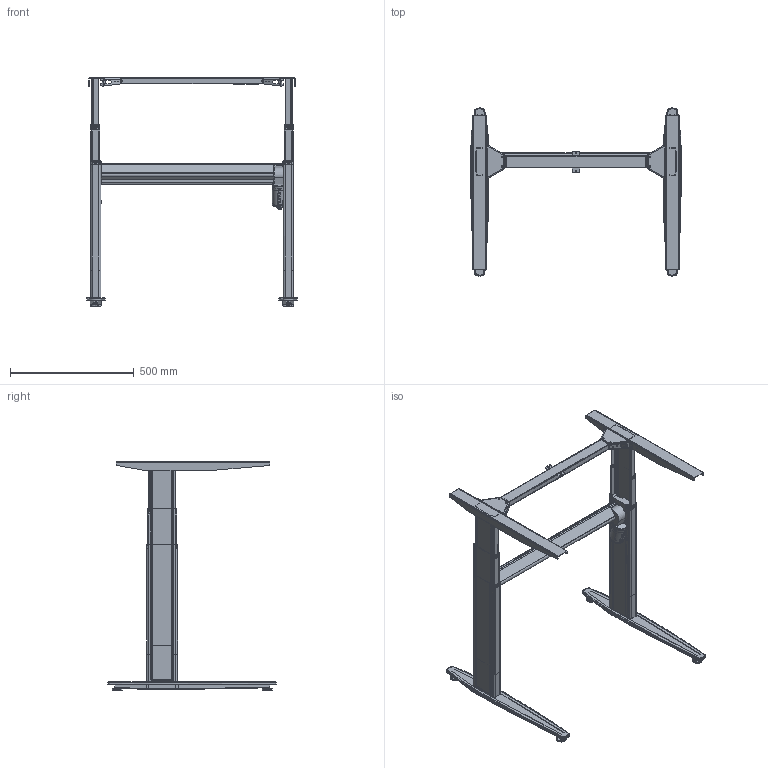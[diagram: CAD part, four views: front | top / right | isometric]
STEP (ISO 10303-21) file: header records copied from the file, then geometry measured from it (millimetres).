
FILE_DESCRIPTION (( 'STEP AP203' ), '1' );
FILE_NAME ('Tech-draw_501-25_XX084.STEP', '2019-12-17T15:29:58', ( '' ), ( '' ), 'SwSTEP 2.0', 'SolidWorks 2018', '' );
FILE_SCHEMA (( 'CONFIG_CONTROL_DESIGN' ));
Length unit declared in the file: millimetre
Products named in the file (50): 148550_silver; 351080; 352610; 346790; 148610_silver; 351040_shell view; 351160_shell view; 329570_silver; 346850; 148600_shell view; 324520_silver; 337750; 304650; 148630_silver; 148560_silver; 350960_shell view; 351030; 148580_silver; 126350_silver; 328460; 331790_silver; 350930_shell view; 331230; 124700_silver; 346830; 329590; 148620_silver; 323080; 350950_silver1; 148530_silver; 346820; 148570_silver; 350970_shell view; 150240_501-25 XS084; 148540_silver1; 328450; 351170_shell view; 148490_silver1; 346840; Tech-draw_501-25_XX084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
Assembly tree (88 placements, depth 6):
  Tech-draw_501-25_XX084
    150240_501-25 XS084
      331790_silver
      124700_silver
        126350_silver
          329580_084
          329590  x2
          331230  x2
        329570_silver  x2
        304650  x2
        337750
      148530_silver
        148500_silver
          148490_silver1
            350930_shell view
            323080
            350940_shell view
            350990
          324520_silver  x2
          350950_silver1
          328450  x2
        148510_silver
          350960_shell view
          351160_shell view
        148610_silver
          148580_silver
            351090
            351120
        304650  x10
        148600_shell view
          142850
            346820  x2
            346850
            346810  x2
            346830
            346840
          346790
          352610
        328460  x2
      148560_silver
        148550_silver
          148540_silver1
            350970_shell view
            323080
            350940_shell view
            350980
          324520_silver  x2
          350950_silver1
          328450  x2
        148570_silver
          350960_shell view
          351170_shell view
        304650  x10
        148630_silver
          148620_silver
            351040_shell view
            351030
          351080
        328460  x2
Bounding box: 853.5 x 679.97 x 924.4 mm (x, y, z)
Volume: 2843210.1 mm3; surface area: 3055350.8 mm2
Topology: 71 solids, 71 shells, 6230 faces, 15406 edges, 9487 vertices
Faces by surface type: plane 3448, cylinder 1644, bspline 771, torus 255, sphere 96, cone 16
Full cylindrical faces by diameter (mm): 2.8 x4, 3 x6, 3.1 x2, 3.3 x8, 4 x2, 5 x14, 6 x44, 6.2 x2, 6.5 x12, 8 x13, 8.1 x2, 13 x1, 14 x4, 14.5 x1, 15 x4, 16 x1, 18.4 x1, 19 x1, 19.8 x1, 24.2 x1, 29.2 x1, 37.6 x8, 60 x1
Entity records: 107543 total; most frequent: CARTESIAN_POINT 37107, ORIENTED_EDGE 13366, DIRECTION 12983, EDGE_CURVE 6683, AXIS2_PLACEMENT_3D 4348, VECTOR 4287, LINE 4287, VERTEX_POINT 4209
